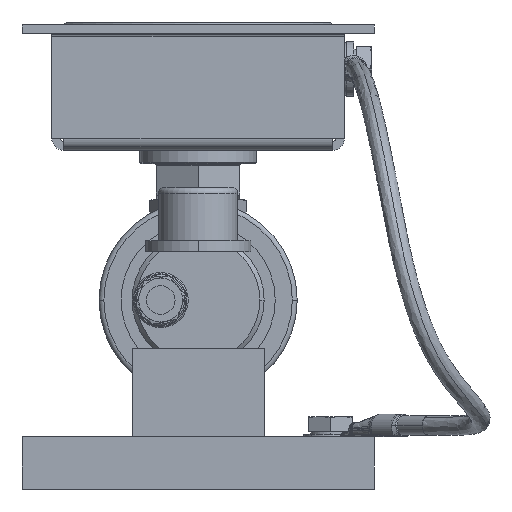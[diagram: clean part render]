
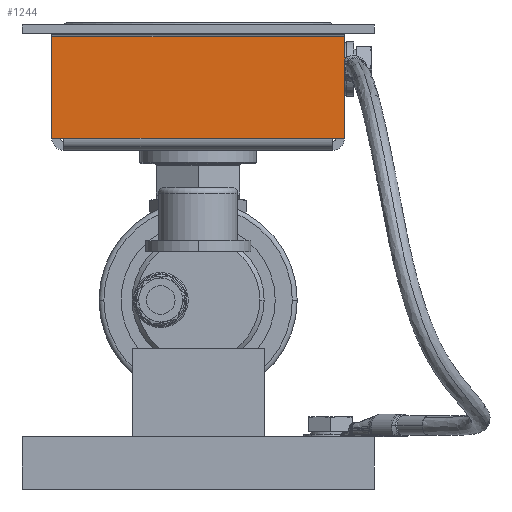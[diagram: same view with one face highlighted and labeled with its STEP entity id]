
A CAD part, front view. The second image highlights one B-rep face of the part: STEP entity #1244.
In plain terms, the highlighted planar face has unit normal (0, -1, 0) as drawn and (-1, 0, 0) by its records, which use the part's own axes.
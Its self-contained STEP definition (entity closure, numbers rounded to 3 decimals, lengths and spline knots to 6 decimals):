
#1244=ADVANCED_FACE('293:1227',(#2310),#2311,.T.);
#2310=FACE_OUTER_BOUND('',#10640,.T.);
#2311=PLANE('',#10641);
#10640=EDGE_LOOP('',(#13425,#13426,#13427,#13428,#13429,#13430));
#10641=AXIS2_PLACEMENT_3D('',#13431,#13432,#13433);
#13425=ORIENTED_EDGE('',*,*,#18579,.F.);
#13426=ORIENTED_EDGE('',*,*,#18577,.T.);
#13427=ORIENTED_EDGE('',*,*,#18576,.T.);
#13428=ORIENTED_EDGE('',*,*,#18570,.F.);
#13429=ORIENTED_EDGE('',*,*,#18565,.F.);
#13430=ORIENTED_EDGE('',*,*,#18562,.F.);
#13431=CARTESIAN_POINT('',(-0.03325,0.0,0.0));
#13432=DIRECTION('',(-1.0,0.0,0.0));
#13433=DIRECTION('',(0.0,-1.0,0.0));
#18562=EDGE_CURVE('325:225',#20801,#20812,#20813,.F.);
#18565=EDGE_CURVE('293:1250',#20812,#20817,#20818,.F.);
#18570=EDGE_CURVE('308:12768',#20817,#20824,#20825,.T.);
#18576=EDGE_CURVE('293:1240',#20827,#20824,#20834,.T.);
#18577=EDGE_CURVE('324:463',#20809,#20827,#20835,.T.);
#18579=EDGE_CURVE('325:228',#20809,#20801,#20837,.F.);
#20801=VERTEX_POINT('',#25140);
#20809=VERTEX_POINT('',#25151);
#20812=VERTEX_POINT('',#25155);
#20813=LINE('',#25156,#25157);
#20817=VERTEX_POINT('',#25163);
#20818=LINE('',#25164,#25165);
#20824=VERTEX_POINT('',#25173);
#20825=LINE('',#25174,#25175);
#20827=VERTEX_POINT('',#25177);
#20834=LINE('',#25187,#25188);
#20835=LINE('',#25189,#25190);
#20837=LINE('',#25193,#25194);
#25140=CARTESIAN_POINT('',(-0.03325,0.0305,0.00275));
#25151=CARTESIAN_POINT('',(-0.03325,-0.0305,0.00275));
#25155=CARTESIAN_POINT('',(-0.03325,0.03325,0.00275));
#25156=CARTESIAN_POINT('',(-0.03325,0.015938,0.00275));
#25157=VECTOR('',#29618,1.0);
#25163=CARTESIAN_POINT('',(-0.03325,0.03325,0.02575));
#25164=CARTESIAN_POINT('',(-0.03325,0.03325,0.0));
#25165=VECTOR('',#29621,1.0);
#25173=CARTESIAN_POINT('',(-0.03325,-0.03325,0.02575));
#25174=CARTESIAN_POINT('',(-0.03325,0.0,0.02575));
#25175=VECTOR('',#29630,1.0);
#25177=CARTESIAN_POINT('',(-0.03325,-0.03325,0.00275));
#25187=CARTESIAN_POINT('',(-0.03325,-0.03325,0.0));
#25188=VECTOR('',#29640,1.0);
#25189=CARTESIAN_POINT('',(-0.03325,-0.015938,0.00275));
#25190=VECTOR('',#29641,1.0);
#25193=CARTESIAN_POINT('',(-0.03325,0.0,0.00275));
#25194=VECTOR('',#29643,1.0);
#29618=DIRECTION('',(-0.0,-1.0,-0.0));
#29621=DIRECTION('',(-0.0,0.0,-1.0));
#29630=DIRECTION('',(-0.0,-1.0,-0.0));
#29640=DIRECTION('',(0.0,0.0,1.0));
#29641=DIRECTION('',(-0.0,-1.0,-0.0));
#29643=DIRECTION('',(0.0,-1.0,0.0));
